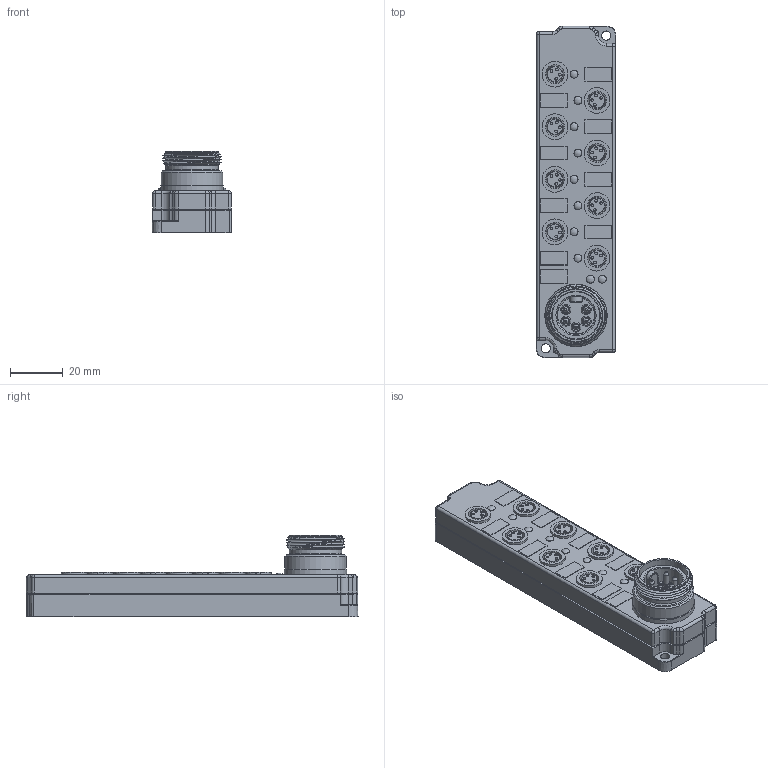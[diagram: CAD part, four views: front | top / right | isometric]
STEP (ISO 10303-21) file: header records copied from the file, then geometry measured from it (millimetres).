
FILE_DESCRIPTION((''),'2;1');
FILE_NAME('C:\TurckZip\8MBM8-Mini.stp','2008-11-06T13:39:49',('IKOROL'),(''),'Autodesk Inventor 2008','Autodesk Inventor 2008','');
FILE_SCHEMA(('CONFIG_CONTROL_DESIGN'));
Length unit declared in the file: millimetre
Products named in the file (1): Part1
Bounding box: 30.3 x 126.31 x 31 mm (x, y, z)
Volume: 48959.2 mm3; surface area: 30274.5 mm2
Topology: 1 solids, 31 shells, 654 faces, 1426 edges, 914 vertices
Faces by surface type: plane 310, cylinder 215, cone 71, bspline 32, sphere 14, torus 12
Full cylindrical faces by diameter (mm): 1 x32, 1.6 x5, 1.7 x5, 1.98 x5, 2 x5, 2.8 x15, 3 x20, 3.05 x20, 3.5 x2, 5.7 x8, 9.8 x16, 14 x2, 14.2 x2, 17.1 x1, 18 x1, 18.5 x2, 19.9 x2, 23.4 x1, 23.8 x1
Entity records: 19674 total; most frequent: CARTESIAN_POINT 5445, DIRECTION 2907, ORIENTED_EDGE 2286, AXIS2_PLACEMENT_3D 1161, EDGE_CURVE 1143, EDGE_LOOP 1056, VERTEX_POINT 861, FACE_OUTER_BOUND 654
